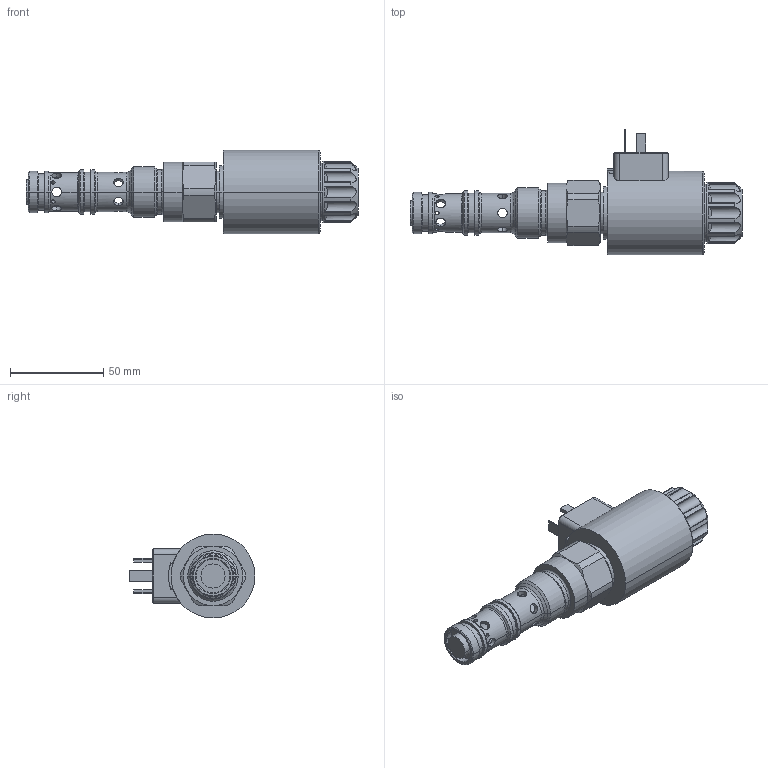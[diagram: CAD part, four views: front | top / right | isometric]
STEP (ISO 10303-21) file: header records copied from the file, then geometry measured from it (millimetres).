
FILE_DESCRIPTION((''),'2;1');
FILE_NAME('SF32P_C3_H60_E1_ASM','2020-12-08T',('l.soukupova'),(''),'PRO/ENGINEER BY PARAMETRIC TECHNOLOGY CORPORATION, 2015440','PRO/ENGINEER BY PARAMETRIC TECHNOLOGY CORPORATION, 2015440','');
FILE_SCHEMA(('AUTOMOTIVE_DESIGN { 1 0 10303 214 1 1 1 1 }'));
Length unit declared in the file: millimetre
Products named in the file (4): SF32P_C3_HXX; 936_4700_F; C22B_E1; SF32P_C3_H60_E1_ASM
Assembly tree (3 placements, depth 2):
  SF32P_C3_H60_E1_ASM
    SF32P_C3_HXX
    936_4700_F
    C22B_E1
Bounding box: 177.9 x 67.5 x 45 mm (x, y, z)
Volume: 135374.4 mm3; surface area: 44400.4 mm2
Topology: 4 solids, 7 shells, 301 faces, 785 edges, 549 vertices
Faces by surface type: cylinder 155, plane 70, cone 50, torus 26
Entity records: 16547 total; most frequent: CARTESIAN_POINT 6063, DIRECTION 1563, ORIENTED_EDGE 1478, PRESENTATION_STYLE_ASSIGNMENT 850, STYLED_ITEM 816, CURVE_STYLE 809, EDGE_CURVE 745, AXIS2_PLACEMENT_3D 612
